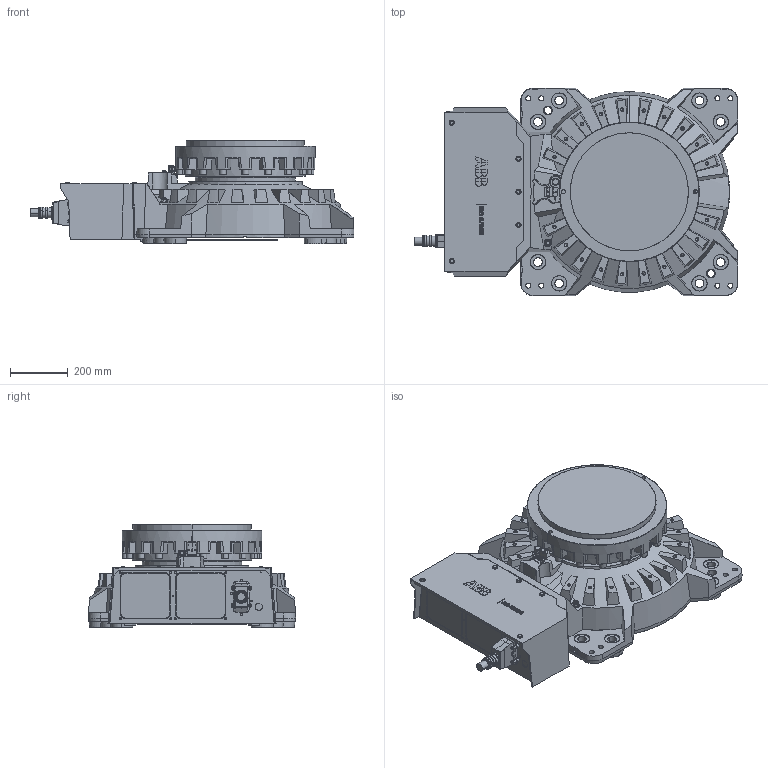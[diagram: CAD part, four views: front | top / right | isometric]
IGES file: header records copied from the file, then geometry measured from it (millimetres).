
Start section: SolidWorks IGES file using analytic representation for surfaces
Global section: file name: N:\DM\Robotics\SEROP_PROJ\Product Development\DevelopmentProjects\Manipulator_Modularity\04. Product Design\06. CAD\Amanda\6730S Simulation models\IRB6730S_150kg-400_OC_01_IGES_J\IRB6730S_All_OC_00_BASE_CAD.igs; native system: SolidWorks 2024; preprocessor: SolidWorks 2024; author: SEJOHLUN; date: 251219.140218; units: millimetre
Bounding box: 1124.5 x 720 x 359.4 mm (x, y, z)
Surface area: 3038823.2 mm2 (no closed solid volume)
Topology: 0 solids, 0 shells, 1564 faces, 21425 edges, 21380 vertices
Faces by surface type: bspline 906, revolution 658
